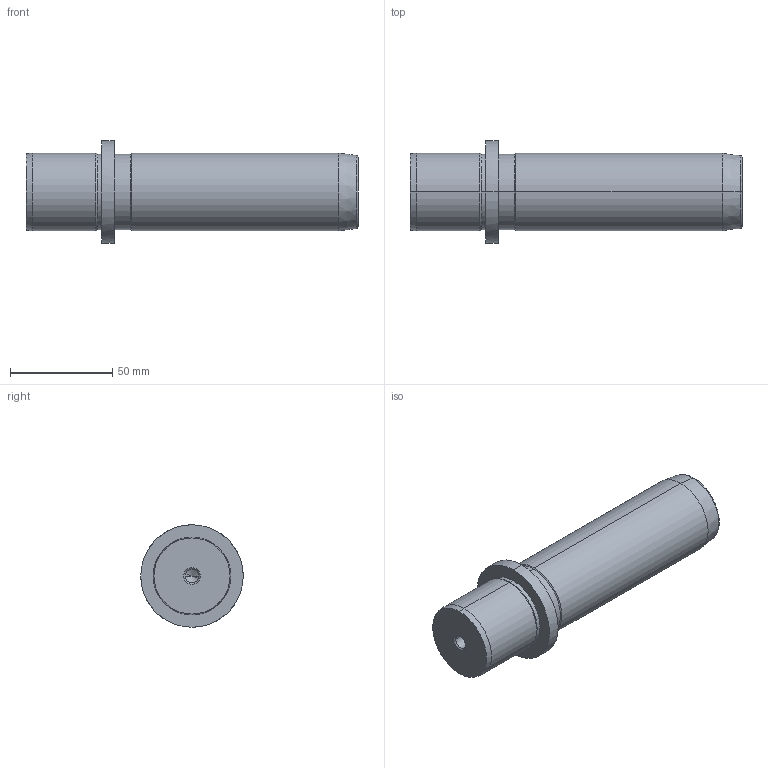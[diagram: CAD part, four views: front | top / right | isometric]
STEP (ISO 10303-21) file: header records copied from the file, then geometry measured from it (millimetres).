
FILE_DESCRIPTION(('CATIA V5 STEP Exchange'),'2;1');
FILE_NAME('C:\Users\Utente\Desktop\IO LAVORO\3D X SITO CF\X SITO\719\719-38x125.stp','2021-01-03T15:41:13+00:00',('none'),('none'),'CATIA Version 5 Release 20 GA (IN-10)','CATIA V5 STEP AP203','none');
FILE_SCHEMA(('CONFIG_CONTROL_DESIGN'));
Length unit declared in the file: millimetre
Products named in the file (1): 719-38x125
Bounding box: 162 x 50 x 50 mm (x, y, z)
Volume: 185522 mm3; surface area: 24347.3 mm2
Topology: 1 solids, 1 shells, 36 faces, 100 edges, 66 vertices
Faces by surface type: cone 16, cylinder 14, plane 4, torus 2
Entity records: 1267 total; most frequent: CARTESIAN_POINT 334, ORIENTED_EDGE 192, DIRECTION 159, EDGE_CURVE 96, AXIS2_PLACEMENT_3D 94, VERTEX_POINT 66, CIRCLE 57, EDGE_LOOP 40
